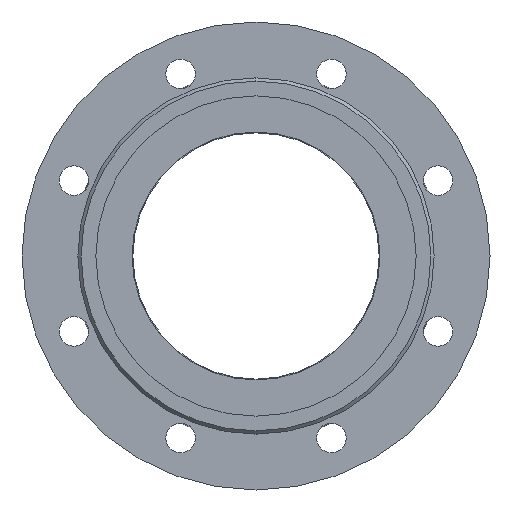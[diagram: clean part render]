
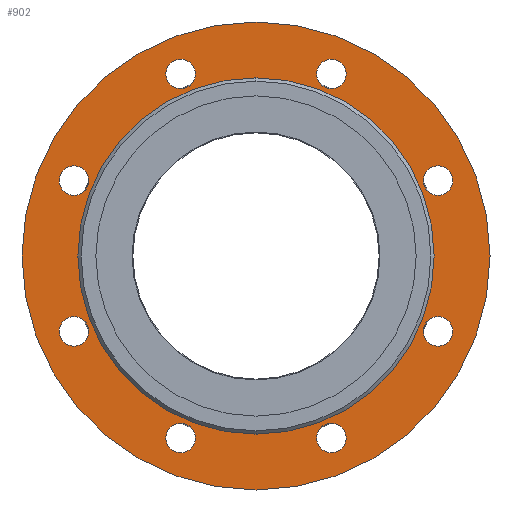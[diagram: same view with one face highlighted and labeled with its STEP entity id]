
A CAD part, left-side view. The second image highlights one B-rep face of the part: STEP entity #902.
In plain terms, the highlighted planar face has unit normal (-1, 0, 0).
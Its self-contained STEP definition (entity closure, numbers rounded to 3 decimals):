
#902=ADVANCED_FACE('',(#1670,#1671,#1672,#1673,#1674,#1675,#1676,#1677,#1678,#1679),#1680,.F.);
#1670=FACE_BOUND('',#2499,.T.);
#1671=FACE_BOUND('',#2500,.T.);
#1672=FACE_BOUND('',#2501,.T.);
#1673=FACE_BOUND('',#2502,.T.);
#1674=FACE_BOUND('',#2503,.T.);
#1675=FACE_BOUND('',#2504,.T.);
#1676=FACE_BOUND('',#2505,.T.);
#1677=FACE_BOUND('',#2506,.T.);
#1678=FACE_BOUND('',#2507,.T.);
#1679=FACE_OUTER_BOUND('',#2508,.T.);
#1680=PLANE('',#2509);
#2499=EDGE_LOOP('',(#4137,#4138));
#2500=EDGE_LOOP('',(#4139,#4140));
#2501=EDGE_LOOP('',(#4141,#4142));
#2502=EDGE_LOOP('',(#4143,#4144));
#2503=EDGE_LOOP('',(#4145,#4146));
#2504=EDGE_LOOP('',(#4147,#4148));
#2505=EDGE_LOOP('',(#4149,#4150));
#2506=EDGE_LOOP('',(#4151,#4152));
#2507=EDGE_LOOP('',(#4153,#4154));
#2508=EDGE_LOOP('',(#4155,#4156));
#2509=AXIS2_PLACEMENT_3D('',#4157,#4158,#4159);
#4137=ORIENTED_EDGE('',*,*,#4443,.T.);
#4138=ORIENTED_EDGE('',*,*,#4944,.T.);
#4139=ORIENTED_EDGE('',*,*,#4774,.T.);
#4140=ORIENTED_EDGE('',*,*,#4681,.T.);
#4141=ORIENTED_EDGE('',*,*,#4582,.T.);
#4142=ORIENTED_EDGE('',*,*,#4848,.T.);
#4143=ORIENTED_EDGE('',*,*,#4831,.T.);
#4144=ORIENTED_EDGE('',*,*,#4948,.T.);
#4145=ORIENTED_EDGE('',*,*,#4547,.T.);
#4146=ORIENTED_EDGE('',*,*,#4615,.T.);
#4147=ORIENTED_EDGE('',*,*,#4524,.T.);
#4148=ORIENTED_EDGE('',*,*,#4789,.T.);
#4149=ORIENTED_EDGE('',*,*,#5065,.T.);
#4150=ORIENTED_EDGE('',*,*,#4575,.T.);
#4151=ORIENTED_EDGE('',*,*,#4518,.T.);
#4152=ORIENTED_EDGE('',*,*,#4590,.T.);
#4153=ORIENTED_EDGE('',*,*,#4885,.T.);
#4154=ORIENTED_EDGE('',*,*,#4540,.T.);
#4155=ORIENTED_EDGE('',*,*,#5066,.F.);
#4156=ORIENTED_EDGE('',*,*,#5025,.F.);
#4157=CARTESIAN_POINT('',(5.0,0.0,0.));
#4158=DIRECTION('',(1.0,0.0,0.));
#4159=DIRECTION('',(0.,0.0,-1.0));
#4443=EDGE_CURVE('',#5173,#5171,#5174,.T.);
#4518=EDGE_CURVE('',#5294,#5298,#5300,.T.);
#4524=EDGE_CURVE('',#5304,#5308,#5310,.T.);
#4540=EDGE_CURVE('',#5334,#5332,#5335,.T.);
#4547=EDGE_CURVE('',#5341,#5345,#5347,.T.);
#4575=EDGE_CURVE('',#5395,#5393,#5396,.T.);
#4582=EDGE_CURVE('',#5402,#5406,#5408,.T.);
#4590=EDGE_CURVE('',#5298,#5294,#5420,.T.);
#4615=EDGE_CURVE('',#5345,#5341,#5457,.T.);
#4681=EDGE_CURVE('',#5562,#5560,#5563,.T.);
#4774=EDGE_CURVE('',#5560,#5562,#5703,.T.);
#4789=EDGE_CURVE('',#5308,#5304,#5722,.T.);
#4831=EDGE_CURVE('',#5775,#5777,#5779,.T.);
#4848=EDGE_CURVE('',#5406,#5402,#5804,.T.);
#4885=EDGE_CURVE('',#5332,#5334,#5857,.T.);
#4944=EDGE_CURVE('',#5171,#5173,#5932,.T.);
#4948=EDGE_CURVE('',#5777,#5775,#5936,.T.);
#5025=EDGE_CURVE('',#6027,#6025,#6029,.T.);
#5065=EDGE_CURVE('',#5393,#5395,#6074,.T.);
#5066=EDGE_CURVE('',#6025,#6027,#6075,.T.);
#5171=VERTEX_POINT('',#6201);
#5173=VERTEX_POINT('',#6204);
#5174=CIRCLE('',#6205,75.0);
#5294=VERTEX_POINT('',#6355);
#5298=VERTEX_POINT('',#6360);
#5300=CIRCLE('',#6363,9.0);
#5304=VERTEX_POINT('',#6367);
#5308=VERTEX_POINT('',#6372);
#5310=CIRCLE('',#6375,9.0);
#5332=VERTEX_POINT('',#6399);
#5334=VERTEX_POINT('',#6402);
#5335=CIRCLE('',#6403,9.0);
#5341=VERTEX_POINT('',#6410);
#5345=VERTEX_POINT('',#6415);
#5347=CIRCLE('',#6418,9.0);
#5393=VERTEX_POINT('',#6474);
#5395=VERTEX_POINT('',#6477);
#5396=CIRCLE('',#6478,9.0);
#5402=VERTEX_POINT('',#6485);
#5406=VERTEX_POINT('',#6490);
#5408=CIRCLE('',#6493,9.0);
#5420=CIRCLE('',#6507,9.0);
#5457=CIRCLE('',#6547,9.0);
#5560=VERTEX_POINT('',#6662);
#5562=VERTEX_POINT('',#6665);
#5563=CIRCLE('',#6666,9.0);
#5703=CIRCLE('',#6842,9.0);
#5722=CIRCLE('',#6866,9.0);
#5775=VERTEX_POINT('',#6926);
#5777=VERTEX_POINT('',#6929);
#5779=CIRCLE('',#6932,9.0);
#5804=CIRCLE('',#6964,9.0);
#5857=CIRCLE('',#7032,9.0);
#5932=CIRCLE('',#7130,75.0);
#5936=CIRCLE('',#7134,9.0);
#6025=VERTEX_POINT('',#7246);
#6027=VERTEX_POINT('',#7249);
#6029=CIRCLE('',#7252,142.5);
#6074=CIRCLE('',#7309,9.0);
#6075=CIRCLE('',#7310,142.5);
#6201=CARTESIAN_POINT('',(5.0,0.,-75.0));
#6204=CARTESIAN_POINT('',(5.0,0.,75.0));
#6205=AXIS2_PLACEMENT_3D('',#7397,#7398,#7399);
#6355=CARTESIAN_POINT('',(5.0,-110.866,-54.922));
#6360=CARTESIAN_POINT('',(5.0,-110.866,-36.922));
#6363=AXIS2_PLACEMENT_3D('',#7510,#7511,#7512);
#6367=CARTESIAN_POINT('',(5.0,110.866,36.922));
#6372=CARTESIAN_POINT('',(5.0,110.866,54.922));
#6375=AXIS2_PLACEMENT_3D('',#7518,#7519,#7520);
#6399=CARTESIAN_POINT('',(5.0,-45.922,-119.866));
#6402=CARTESIAN_POINT('',(5.,-45.922,-101.866));
#6403=AXIS2_PLACEMENT_3D('',#7545,#7546,#7547);
#6410=CARTESIAN_POINT('',(5.0,-45.922,101.866));
#6415=CARTESIAN_POINT('',(5.,-45.922,119.866));
#6418=AXIS2_PLACEMENT_3D('',#7557,#7558,#7559);
#6474=CARTESIAN_POINT('',(5.0,45.922,101.866));
#6477=CARTESIAN_POINT('',(5.,45.922,119.866));
#6478=AXIS2_PLACEMENT_3D('',#7601,#7602,#7603);
#6485=CARTESIAN_POINT('',(5.0,45.922,-119.866));
#6490=CARTESIAN_POINT('',(5.,45.922,-101.866));
#6493=AXIS2_PLACEMENT_3D('',#7613,#7614,#7615);
#6507=AXIS2_PLACEMENT_3D('',#7627,#7628,#7629);
#6547=AXIS2_PLACEMENT_3D('',#7678,#7679,#7680);
#6662=CARTESIAN_POINT('',(5.0,110.866,-54.922));
#6665=CARTESIAN_POINT('',(5.0,110.866,-36.922));
#6666=AXIS2_PLACEMENT_3D('',#7808,#7809,#7810);
#6842=AXIS2_PLACEMENT_3D('',#7940,#7941,#7942);
#6866=AXIS2_PLACEMENT_3D('',#7954,#7955,#7956);
#6926=CARTESIAN_POINT('',(5.0,-110.866,36.922));
#6929=CARTESIAN_POINT('',(5.0,-110.866,54.922));
#6932=AXIS2_PLACEMENT_3D('',#8023,#8024,#8025);
#6964=AXIS2_PLACEMENT_3D('',#8045,#8046,#8047);
#7032=AXIS2_PLACEMENT_3D('',#8090,#8091,#8092);
#7130=AXIS2_PLACEMENT_3D('',#8155,#8156,#8157);
#7134=AXIS2_PLACEMENT_3D('',#8158,#8159,#8160);
#7246=CARTESIAN_POINT('',(5.,0.0,-142.5));
#7249=CARTESIAN_POINT('',(5.,0.,142.5));
#7252=AXIS2_PLACEMENT_3D('',#8240,#8241,#8242);
#7309=AXIS2_PLACEMENT_3D('',#8273,#8274,#8275);
#7310=AXIS2_PLACEMENT_3D('',#8276,#8277,#8278);
#7397=CARTESIAN_POINT('',(5.0,0.0,0.));
#7398=DIRECTION('',(1.0,0.0,0.));
#7399=DIRECTION('',(0.,0.0,-1.0));
#7510=CARTESIAN_POINT('',(5.0,-110.866,-45.922));
#7511=DIRECTION('',(1.0,0.0,0.));
#7512=DIRECTION('',(0.,0.0,-1.0));
#7518=CARTESIAN_POINT('',(5.0,110.866,45.922));
#7519=DIRECTION('',(1.0,0.0,0.));
#7520=DIRECTION('',(0.,0.0,-1.0));
#7545=CARTESIAN_POINT('',(5.,-45.922,-110.866));
#7546=DIRECTION('',(1.0,0.0,0.));
#7547=DIRECTION('',(0.,0.0,-1.0));
#7557=CARTESIAN_POINT('',(5.,-45.922,110.866));
#7558=DIRECTION('',(1.0,0.0,0.));
#7559=DIRECTION('',(0.,0.0,-1.0));
#7601=CARTESIAN_POINT('',(5.,45.922,110.866));
#7602=DIRECTION('',(1.0,0.0,0.));
#7603=DIRECTION('',(0.,0.0,-1.0));
#7613=CARTESIAN_POINT('',(5.,45.922,-110.866));
#7614=DIRECTION('',(1.0,0.0,0.));
#7615=DIRECTION('',(0.,0.0,-1.0));
#7627=CARTESIAN_POINT('',(5.0,-110.866,-45.922));
#7628=DIRECTION('',(1.0,0.0,0.));
#7629=DIRECTION('',(0.,0.0,-1.0));
#7678=CARTESIAN_POINT('',(5.,-45.922,110.866));
#7679=DIRECTION('',(1.0,0.0,0.));
#7680=DIRECTION('',(0.,0.0,-1.0));
#7808=CARTESIAN_POINT('',(5.0,110.866,-45.922));
#7809=DIRECTION('',(1.0,0.0,0.));
#7810=DIRECTION('',(0.,0.0,-1.0));
#7940=CARTESIAN_POINT('',(5.0,110.866,-45.922));
#7941=DIRECTION('',(1.0,0.0,0.));
#7942=DIRECTION('',(0.,0.0,-1.0));
#7954=CARTESIAN_POINT('',(5.0,110.866,45.922));
#7955=DIRECTION('',(1.0,0.0,0.));
#7956=DIRECTION('',(0.,0.0,-1.0));
#8023=CARTESIAN_POINT('',(5.0,-110.866,45.922));
#8024=DIRECTION('',(1.0,0.0,0.));
#8025=DIRECTION('',(0.,0.0,-1.0));
#8045=CARTESIAN_POINT('',(5.,45.922,-110.866));
#8046=DIRECTION('',(1.0,0.0,0.));
#8047=DIRECTION('',(0.,0.0,-1.0));
#8090=CARTESIAN_POINT('',(5.,-45.922,-110.866));
#8091=DIRECTION('',(1.0,0.0,0.));
#8092=DIRECTION('',(0.,0.0,-1.0));
#8155=CARTESIAN_POINT('',(5.0,0.0,0.));
#8156=DIRECTION('',(1.0,0.0,0.));
#8157=DIRECTION('',(0.,0.0,-1.0));
#8158=CARTESIAN_POINT('',(5.0,-110.866,45.922));
#8159=DIRECTION('',(1.0,0.0,0.));
#8160=DIRECTION('',(0.,0.0,-1.0));
#8240=CARTESIAN_POINT('',(5.0,0.0,0.));
#8241=DIRECTION('',(1.0,0.0,0.));
#8242=DIRECTION('',(0.,0.0,-1.0));
#8273=CARTESIAN_POINT('',(5.,45.922,110.866));
#8274=DIRECTION('',(1.0,0.0,0.));
#8275=DIRECTION('',(0.,0.0,-1.0));
#8276=CARTESIAN_POINT('',(5.0,0.0,0.));
#8277=DIRECTION('',(1.0,0.0,0.));
#8278=DIRECTION('',(0.,0.0,-1.0));
